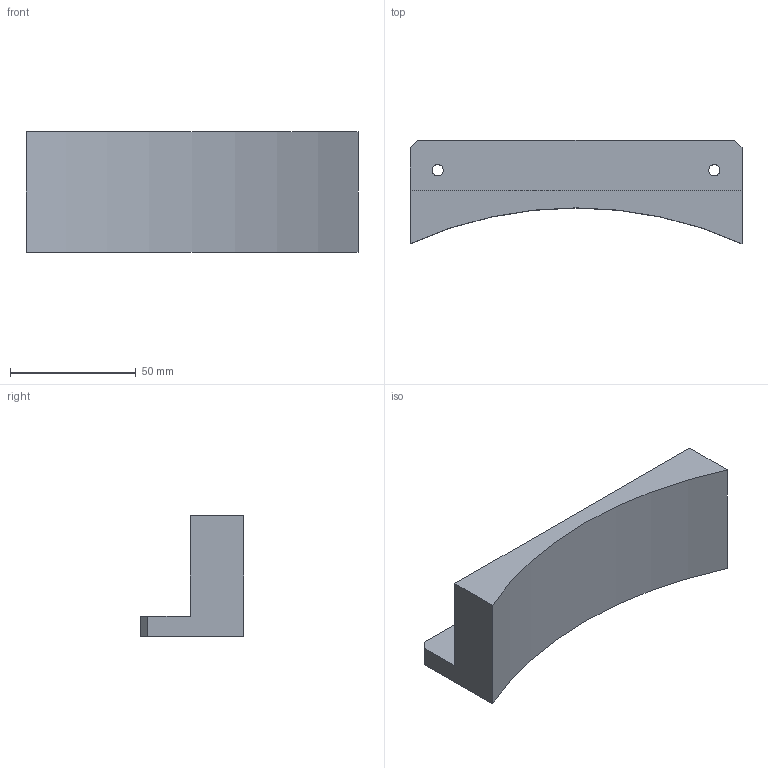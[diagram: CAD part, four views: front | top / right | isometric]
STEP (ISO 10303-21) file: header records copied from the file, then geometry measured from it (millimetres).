
FILE_DESCRIPTION (( 'STEP AP203' ), '1' );
FILE_NAME ('04_wrist_cradle.step', '2026-10-06T17:14:25', ( '' ), ( '' ), 'SwSTEP 2.0', 'SolidWorks 2025', '' );
FILE_SCHEMA (( 'CONFIG_CONTROL_DESIGN' ));
Length unit declared in the file: millimetre
Products named in the file (1): 04_wrist_cradle
Bounding box: 132 x 41.25 x 48 mm (x, y, z)
Volume: 94677.6 mm3; surface area: 23701.7 mm2
Topology: 1 solids, 1 shells, 14 faces, 36 edges, 24 vertices
Faces by surface type: plane 9, cylinder 5
Entity records: 515 total; most frequent: DIRECTION 76, CARTESIAN_POINT 75, ORIENTED_EDGE 72, EDGE_CURVE 36, VECTOR 26, LINE 26, AXIS2_PLACEMENT_3D 25, VERTEX_POINT 24
